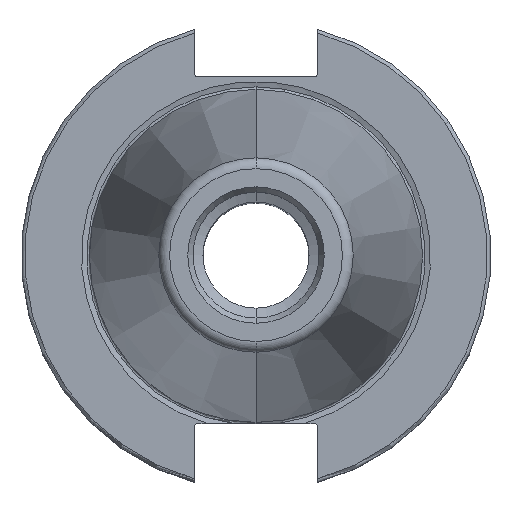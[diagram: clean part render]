
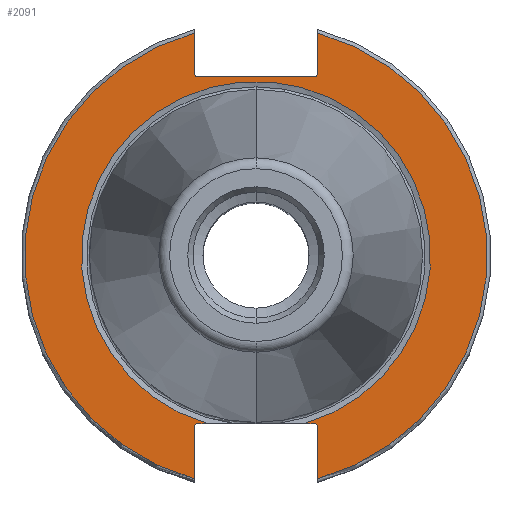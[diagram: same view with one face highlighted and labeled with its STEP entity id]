
A CAD part, top view. The second image highlights one B-rep face of the part: STEP entity #2091.
In plain terms, the highlighted planar face has unit normal (0, 0, 1).
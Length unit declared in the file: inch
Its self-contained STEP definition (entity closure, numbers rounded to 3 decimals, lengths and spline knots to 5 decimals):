
#35 = DIRECTION ( 'NONE',  ( 0., 0., -1. ) ) ;
#105 = EDGE_CURVE ( 'NONE', #1985, #1847, #2316, .T. ) ;
#236 = CARTESIAN_POINT ( 'NONE',  ( -0.40209, -1.3825, -0.125 ) ) ;
#248 = AXIS2_PLACEMENT_3D ( 'NONE', #2194, #35, #1813 ) ;
#258 = CARTESIAN_POINT ( 'NONE',  ( -0.51, 1.83806, -0.125 ) ) ;
#273 = ORIENTED_EDGE ( 'NONE', *, *, #2005, .T. ) ;
#312 = EDGE_CURVE ( 'NONE', #1905, #1985, #4775, .T. ) ;
#336 = DIRECTION ( 'NONE',  ( 0., 0., 1. ) ) ;
#340 = AXIS2_PLACEMENT_3D ( 'NONE', #4174, #336, #1101 ) ;
#364 = ORIENTED_EDGE ( 'NONE', *, *, #2340, .T. ) ;
#368 = DIRECTION ( 'NONE',  ( 0., -1., 0. ) ) ;
#392 = AXIS2_PLACEMENT_3D ( 'NONE', #4572, #5385, #1560 ) ;
#416 = CIRCLE ( 'NONE', #1137, 0.03 ) ;
#564 = EDGE_CURVE ( 'NONE', #3337, #981, #3897, .T. ) ;
#583 = LINE ( 'NONE', #2289, #4109 ) ;
#596 = CARTESIAN_POINT ( 'NONE',  ( 0.51, 0., -0.125 ) ) ;
#628 = LINE ( 'NONE', #596, #4632 ) ;
#718 = ORIENTED_EDGE ( 'NONE', *, *, #3405, .F. ) ;
#757 = PLANE ( 'NONE',  #340 ) ;
#794 = AXIS2_PLACEMENT_3D ( 'NONE', #1529, #1154, #368 ) ;
#797 = DIRECTION ( 'NONE',  ( 0., 0., -1. ) ) ;
#966 = CIRCLE ( 'NONE', #4008, 0.03 ) ;
#981 = VERTEX_POINT ( 'NONE', #3549 ) ;
#1029 = VERTEX_POINT ( 'NONE', #2729 ) ;
#1094 = CARTESIAN_POINT ( 'NONE',  ( -0.51, 0., -0.125 ) ) ;
#1101 = DIRECTION ( 'NONE',  ( 0., -1., 0. ) ) ;
#1123 = DIRECTION ( 'NONE',  ( 0., -1., 0. ) ) ;
#1137 = AXIS2_PLACEMENT_3D ( 'NONE', #3786, #2938, #1123 ) ;
#1154 = DIRECTION ( 'NONE',  ( 0., 0., -1. ) ) ;
#1330 = CARTESIAN_POINT ( 'NONE',  ( 0.51, -1.83806, -0.125 ) ) ;
#1366 = DIRECTION ( 'NONE',  ( 0., 0., -1. ) ) ;
#1529 = CARTESIAN_POINT ( 'NONE',  ( -0.48, 1.5075, -0.125 ) ) ;
#1548 = ORIENTED_EDGE ( 'NONE', *, *, #105, .T. ) ;
#1560 = DIRECTION ( 'NONE',  ( 0., -1., 0. ) ) ;
#1593 = VERTEX_POINT ( 'NONE', #3499 ) ;
#1610 = VECTOR ( 'NONE', #3443, 39.37008 ) ;
#1637 = CARTESIAN_POINT ( 'NONE',  ( 0., 0., -0.125 ) ) ;
#1668 = ORIENTED_EDGE ( 'NONE', *, *, #564, .F. ) ;
#1681 = DIRECTION ( 'NONE',  ( 0., 1., 0. ) ) ;
#1703 = VERTEX_POINT ( 'NONE', #2886 ) ;
#1738 = CARTESIAN_POINT ( 'NONE',  ( -0.48, 1.4775, -0.125 ) ) ;
#1762 = EDGE_CURVE ( 'NONE', #5043, #1847, #4277, .T. ) ;
#1813 = DIRECTION ( 'NONE',  ( 0., 1., 0. ) ) ;
#1829 = EDGE_CURVE ( 'NONE', #1703, #3337, #3281, .T. ) ;
#1847 = VERTEX_POINT ( 'NONE', #1330 ) ;
#1905 = VERTEX_POINT ( 'NONE', #4378 ) ;
#1919 = EDGE_CURVE ( 'NONE', #3921, #5043, #628, .T. ) ;
#1985 = VERTEX_POINT ( 'NONE', #3649 ) ;
#2005 = EDGE_CURVE ( 'NONE', #2407, #981, #4019, .T. ) ;
#2018 = ORIENTED_EDGE ( 'NONE', *, *, #3860, .T. ) ;
#2054 = FACE_OUTER_BOUND ( 'NONE', #5323, .T. ) ;
#2087 = DIRECTION ( 'NONE',  ( 0., 1., 0. ) ) ;
#2091 = ADVANCED_FACE ( 'NONE', ( #2054 ), #757, .T. ) ;
#2159 = CARTESIAN_POINT ( 'NONE',  ( -0.51, 0., -0.125 ) ) ;
#2194 = CARTESIAN_POINT ( 'NONE',  ( 0., 0., -0.125 ) ) ;
#2289 = CARTESIAN_POINT ( 'NONE',  ( 1.9075, -1.3825, -0.125 ) ) ;
#2316 = LINE ( 'NONE', #4516, #5135 ) ;
#2318 = CIRCLE ( 'NONE', #2937, 1.43979 ) ;
#2340 = EDGE_CURVE ( 'NONE', #2927, #2519, #2318, .T. ) ;
#2348 = CARTESIAN_POINT ( 'NONE',  ( 0.40209, -1.3825, -0.125 ) ) ;
#2407 = VERTEX_POINT ( 'NONE', #1738 ) ;
#2409 = VERTEX_POINT ( 'NONE', #4640 ) ;
#2494 = EDGE_CURVE ( 'NONE', #2519, #1905, #583, .T. ) ;
#2519 = VERTEX_POINT ( 'NONE', #2348 ) ;
#2613 = CARTESIAN_POINT ( 'NONE',  ( 0.51, 1.83806, -0.125 ) ) ;
#2641 = LINE ( 'NONE', #4353, #5511 ) ;
#2661 = AXIS2_PLACEMENT_3D ( 'NONE', #1637, #797, #2087 ) ;
#2729 = CARTESIAN_POINT ( 'NONE',  ( -0.51, -1.4125, -0.125 ) ) ;
#2878 = ORIENTED_EDGE ( 'NONE', *, *, #4480, .T. ) ;
#2886 = CARTESIAN_POINT ( 'NONE',  ( -0.51, -1.83806, -0.125 ) ) ;
#2927 = VERTEX_POINT ( 'NONE', #236 ) ;
#2937 = AXIS2_PLACEMENT_3D ( 'NONE', #5502, #3386, #1681 ) ;
#2938 = DIRECTION ( 'NONE',  ( 0., 0., -1. ) ) ;
#3086 = CARTESIAN_POINT ( 'NONE',  ( 0.48, 1.5075, -0.125 ) ) ;
#3124 = DIRECTION ( 'NONE',  ( 0., -1., 0. ) ) ;
#3218 = LINE ( 'NONE', #1094, #3736 ) ;
#3281 = CIRCLE ( 'NONE', #248, 1.9075 ) ;
#3337 = VERTEX_POINT ( 'NONE', #258 ) ;
#3386 = DIRECTION ( 'NONE',  ( 0., 0., -1. ) ) ;
#3405 = EDGE_CURVE ( 'NONE', #2407, #1593, #2641, .T. ) ;
#3415 = CARTESIAN_POINT ( 'NONE',  ( 1.9075, -1.3825, -0.125 ) ) ;
#3443 = DIRECTION ( 'NONE',  ( 0., -1., 0. ) ) ;
#3458 = DIRECTION ( 'NONE',  ( 1., 0., 0. ) ) ;
#3499 = CARTESIAN_POINT ( 'NONE',  ( 0.48, 1.4775, -0.125 ) ) ;
#3523 = LINE ( 'NONE', #3415, #4795 ) ;
#3533 = EDGE_CURVE ( 'NONE', #1029, #2409, #416, .T. ) ;
#3549 = CARTESIAN_POINT ( 'NONE',  ( -0.51, 1.5075, -0.125 ) ) ;
#3649 = CARTESIAN_POINT ( 'NONE',  ( 0.51, -1.4125, -0.125 ) ) ;
#3736 = VECTOR ( 'NONE', #4371, 39.37008 ) ;
#3786 = CARTESIAN_POINT ( 'NONE',  ( -0.48, -1.4125, -0.125 ) ) ;
#3854 = ORIENTED_EDGE ( 'NONE', *, *, #5064, .T. ) ;
#3860 = EDGE_CURVE ( 'NONE', #1703, #1029, #3218, .T. ) ;
#3897 = LINE ( 'NONE', #2159, #1610 ) ;
#3911 = DIRECTION ( 'NONE',  ( 0., -1., 0. ) ) ;
#3921 = VERTEX_POINT ( 'NONE', #4850 ) ;
#4008 = AXIS2_PLACEMENT_3D ( 'NONE', #3086, #1366, #3911 ) ;
#4019 = CIRCLE ( 'NONE', #794, 0.03 ) ;
#4021 = DIRECTION ( 'NONE',  ( 0., 1., 0. ) ) ;
#4035 = DIRECTION ( 'NONE',  ( 1., 0., 0. ) ) ;
#4062 = ORIENTED_EDGE ( 'NONE', *, *, #312, .T. ) ;
#4109 = VECTOR ( 'NONE', #4035, 39.37008 ) ;
#4174 = CARTESIAN_POINT ( 'NONE',  ( 1.9075, 0., -0.125 ) ) ;
#4277 = CIRCLE ( 'NONE', #2661, 1.9075 ) ;
#4353 = CARTESIAN_POINT ( 'NONE',  ( 1.9075, 1.4775, -0.125 ) ) ;
#4371 = DIRECTION ( 'NONE',  ( 0., 1., 0. ) ) ;
#4378 = CARTESIAN_POINT ( 'NONE',  ( 0.48, -1.3825, -0.125 ) ) ;
#4480 = EDGE_CURVE ( 'NONE', #2409, #2927, #3523, .T. ) ;
#4516 = CARTESIAN_POINT ( 'NONE',  ( 0.51, 0., -0.125 ) ) ;
#4572 = CARTESIAN_POINT ( 'NONE',  ( 0.48, -1.4125, -0.125 ) ) ;
#4618 = ORIENTED_EDGE ( 'NONE', *, *, #1762, .F. ) ;
#4632 = VECTOR ( 'NONE', #4021, 39.37008 ) ;
#4640 = CARTESIAN_POINT ( 'NONE',  ( -0.48, -1.3825, -0.125 ) ) ;
#4775 = CIRCLE ( 'NONE', #392, 0.03 ) ;
#4795 = VECTOR ( 'NONE', #5226, 39.37008 ) ;
#4850 = CARTESIAN_POINT ( 'NONE',  ( 0.51, 1.5075, -0.125 ) ) ;
#4985 = ORIENTED_EDGE ( 'NONE', *, *, #2494, .T. ) ;
#5043 = VERTEX_POINT ( 'NONE', #2613 ) ;
#5064 = EDGE_CURVE ( 'NONE', #3921, #1593, #966, .T. ) ;
#5119 = ORIENTED_EDGE ( 'NONE', *, *, #3533, .T. ) ;
#5135 = VECTOR ( 'NONE', #3124, 39.37008 ) ;
#5226 = DIRECTION ( 'NONE',  ( 1., 0., 0. ) ) ;
#5260 = ORIENTED_EDGE ( 'NONE', *, *, #1829, .F. ) ;
#5307 = ORIENTED_EDGE ( 'NONE', *, *, #1919, .F. ) ;
#5323 = EDGE_LOOP ( 'NONE', ( #1668, #5260, #2018, #5119, #2878, #364, #4985, #4062, #1548, #4618, #5307, #3854, #718, #273 ) ) ;
#5385 = DIRECTION ( 'NONE',  ( 0., 0., -1. ) ) ;
#5502 = CARTESIAN_POINT ( 'NONE',  ( 0., 0., -0.125 ) ) ;
#5511 = VECTOR ( 'NONE', #3458, 39.37008 ) ;
